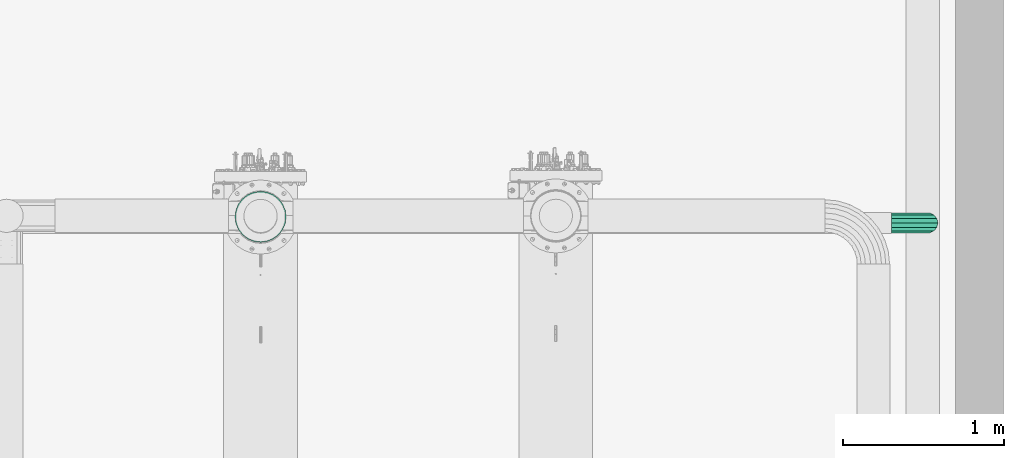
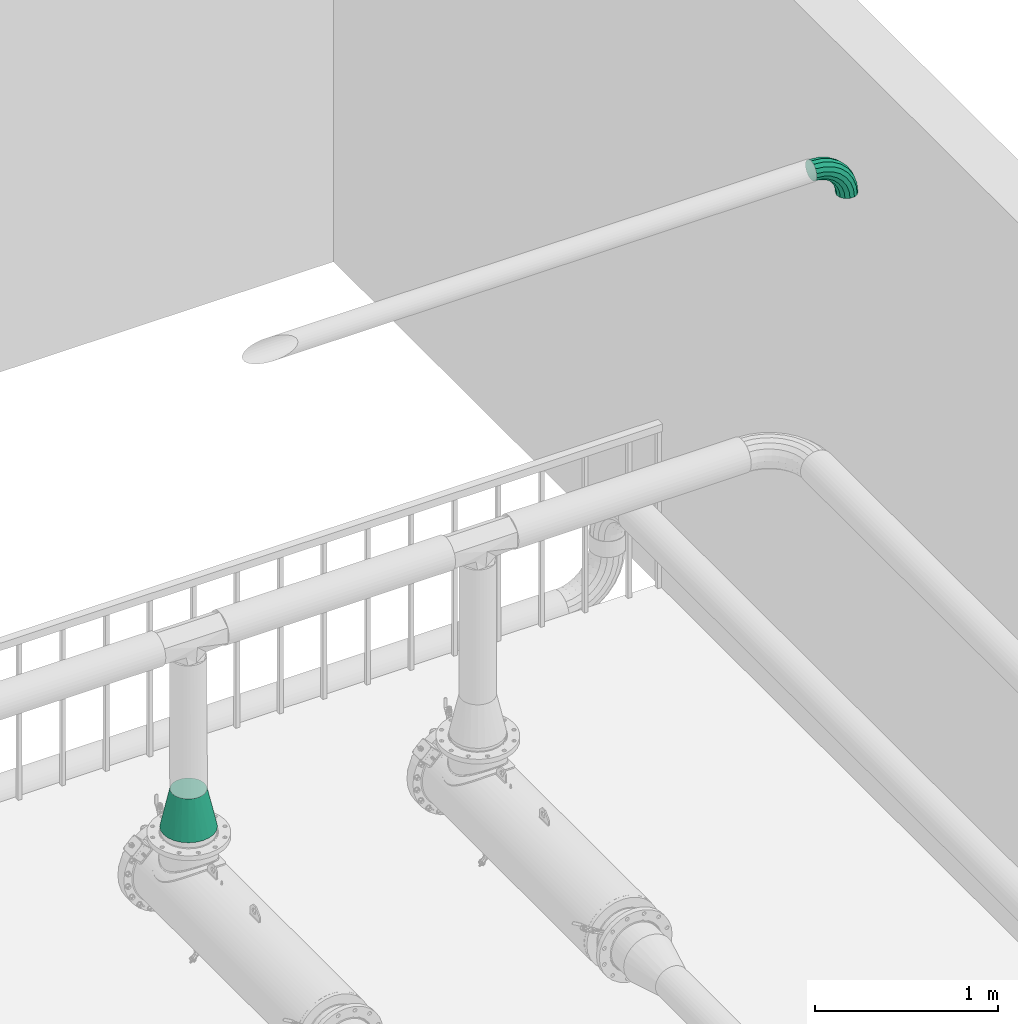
# One storey, part 28 of 28: 2 flow fittings.
"""IFC2X3 building model written with IfcOpenShell, lengths in millimetres."""

from ifc_helpers import new_model, entity, si_unit, converted_unit, direction, frame, origin, place, context, subcontext, project, spatial, faceted_brep, source, transform, mapped, material, type_object, type_shapes, element, save


model = new_model("IFC2X3")

# Units and contexts
model_context = context("Model", 3, precision=0.01, world=origin(), true_north=direction((6.123031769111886e-17, 1.0)))
body_context = subcontext(model_context, "Body", "Model", "MODEL_VIEW")
ifc_project = project(units=[si_unit("LENGTHUNIT", "METRE", prefix="MILLI"), converted_unit("PLANEANGLEUNIT", "DEGREE", entity("IfcPlaneAngleMeasure", 0.017453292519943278), si_unit("PLANEANGLEUNIT", "RADIAN"), dimensions=[0, 0, 0, 0, 0, 0, 0]), si_unit("AREAUNIT", "SQUARE_METRE")], contexts=[model_context])

# Site, building, storey
site_placement = place(None, frame((7776.576483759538, 118.3519876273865, 0.0)))
site = spatial("IfcSite", under=ifc_project, at=site_placement, Name="Default", CompositionType="ELEMENT")
building_placement = place(site_placement, origin())
building = spatial("IfcBuilding", under=site, at=building_placement, Name="Bygning (endres i Project Information)", CompositionType="ELEMENT")
storey_placement = place(building_placement, frame((0.0, 0.0, 14000.0)))
storey = spatial("IfcBuildingStorey", under=building, at=storey_placement, Name="Plan U1 - Arbeid", CompositionType="ELEMENT", Elevation=14000.000000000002)

# Flow fittings
ifc_material = material(Name="SS 2343 Rustfritt stål, prosessrør, generisk")
pipe_fitting_type_1 = type_object("IfcPipeFittingType", Name="Overganger, konsentriske, rustfritt EN 1,4307304L:Standard", PredefinedType="NOTDEFINED", material=ifc_material)
shared_shape_1 = source(origin(), body_context, "Body", "Brep", [
    faceted_brep([(252.20000000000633, 17.712114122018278, 100.45039080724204), (252.20000000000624, -17.712114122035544, 100.45039080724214), (252.2000000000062, -51.0, 88.3345911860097), (252.20000000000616, -78.13653319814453, 65.56433618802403), (252.20000000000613, -95.8486473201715, 34.8860546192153), (252.20000000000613, -102.0, 0.0), (252.20000000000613, -95.84864732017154, -34.88605461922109), (252.20000000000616, -78.13653319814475, -65.56433618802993), (252.2000000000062, -51.0, -88.33459118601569), (252.20000000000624, -17.712114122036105, -100.45039080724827), (252.20000000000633, 17.712114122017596, -100.45039080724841), (252.20000000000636, 51.0, -88.33459118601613), (252.2000000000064, 78.1365331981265, -65.5643361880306), (252.20000000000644, 95.84864732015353, -34.886054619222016), (252.20000000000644, 102.0, 0.0), (252.20000000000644, 95.84864732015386, 34.88605461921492), (252.2000000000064, 78.13653319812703, 65.56433618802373), (252.20000000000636, 51.0, 88.33459118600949), (0.0, 40.97105483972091, 152.90605830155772), (0.0, 79.14999999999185, 137.0918214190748), (0.0, 111.93500346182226, 111.93500346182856), (0.0, 137.09182141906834, 79.14999999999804), (0.0, 152.90605830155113, 40.97105483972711), (0.0, 158.29999999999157, 0.0), (0.0, 152.90605830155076, -40.97105483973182), (0.0, 137.09182141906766, -79.15000000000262), (0.0, 111.93500346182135, -111.9350034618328), (0.0, 79.14999999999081, -137.09182141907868), (0.0, 40.97105483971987, -152.90605830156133), (0.0, 0.0, -158.30000000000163), (0.0, -40.97105483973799, -152.906058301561), (0.0, -79.1500000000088, -137.09182141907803), (0.0, -111.93500346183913, -111.93500346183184), (0.0, -137.09182141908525, -79.15000000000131), (0.0, -152.90605830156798, -40.97105483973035), (0.0, -158.30000000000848, 0.0), (0.0, -152.90605830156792, 40.97105483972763), (0.0, -137.09182141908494, 79.14999999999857), (0.0, -111.93500346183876, 111.935003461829), (0.0, -79.15000000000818, 137.09182141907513), (0.0, -40.971054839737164, 152.90605830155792), (0.0, 0.0, 158.29999999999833)], [[[0, 1, 2, 3, 4, 5, 6, 7, 8, 9, 10, 11, 12, 13, 14, 15, 16, 17]], [[18, 19, 20, 21, 22, 23, 24, 25, 26, 27, 28, 29, 30, 31, 32, 33, 34, 35, 36, 37, 38, 39, 40, 41]], [[14, 13, 24]], [[11, 10, 28]], [[12, 11, 26]], [[13, 12, 25]], [[13, 25, 24]], [[24, 23, 14]], [[11, 27, 26]], [[26, 25, 12]], [[11, 28, 27]], [[10, 29, 28]], [[32, 8, 7]], [[30, 9, 8]], [[34, 33, 6]], [[6, 33, 7]], [[34, 6, 5]], [[33, 32, 7]], [[8, 31, 30]], [[30, 29, 9]], [[35, 34, 5]], [[32, 31, 8]], [[9, 29, 10]], [[5, 4, 36]], [[2, 1, 40]], [[3, 2, 38]], [[4, 3, 37]], [[4, 37, 36]], [[36, 35, 5]], [[2, 39, 38]], [[38, 37, 3]], [[2, 40, 39]], [[1, 41, 40]], [[20, 17, 16]], [[18, 0, 17]], [[22, 21, 15]], [[15, 21, 16]], [[22, 15, 14]], [[21, 20, 16]], [[17, 19, 18]], [[18, 41, 0]], [[23, 22, 14]], [[20, 19, 17]], [[0, 41, 1]]]),
])
type_shapes(pipe_fitting_type_1, [shared_shape_1])
flow_fitting_1_placement = place(storey_placement, frame((27667.696048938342, 28423.819699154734, 1299.3891515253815), z_axis=(0.0, -0.9999852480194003, 0.005431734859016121), x_axis=(0.0, 0.005431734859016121, 0.9999852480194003)))
element("IfcFlowFitting", 1, at=flow_fitting_1_placement, inside=storey, type_object=pipe_fitting_type_1, material=ifc_material, Name="Overganger, konsentriske, rustfritt EN 1,4307304L:Standard", ObjectType="Overganger, konsentriske, rustfritt EN 1,4307304L:Standard", context=body_context, shape_type="MappedRepresentation", body=[
    mapped(shared_shape_1, transform((0.0, 0.0, 0.0), scale=1.0)),
])
pipe_fitting_type_2 = type_object("IfcPipeFittingType", Name="VA_prosess_rustfritt_bend_D+100:VA_prosess_rustfritt_bend_D+100", PredefinedType="NOTDEFINED", material=ifc_material)
shared_shape_2 = source(origin(), body_context, "Body", "Brep", [
    faceted_brep([(-161.0962936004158, -55.288263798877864, 0.0), (-162.47390597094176, -49.2540759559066, 27.117733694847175), (-225.08644265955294, -56.310554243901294, 27.117733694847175), (-225.08644265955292, -62.50000000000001, 0.0), (-166.33389005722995, -32.34665733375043, 48.86446765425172), (-225.086442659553, -38.968112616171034, 48.86446765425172), (-171.91172867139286, -7.914729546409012, 60.93299451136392), (-225.08644265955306, -13.907558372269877, 60.93299451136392), (-178.10266246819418, 19.20266446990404, 60.93299451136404), (-225.08644265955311, 13.90755837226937, 60.93299451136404), (-183.68050108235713, 43.63459225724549, 48.86446765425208), (-225.0864426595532, 38.96811261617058, 48.86446765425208), (-187.54048516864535, 60.54201087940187, 27.117733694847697), (-225.08644265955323, 56.31055424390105, 27.117733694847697), (-188.91809753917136, 66.57619872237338, 0.0), (-225.08644265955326, 62.50000000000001, 0.0), (-187.54048516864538, 60.54201087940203, -27.117733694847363), (-225.08644265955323, 56.31055424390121, -27.117733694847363), (-183.68050108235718, 43.63459225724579, -48.86446765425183), (-225.0864426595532, 38.96811261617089, -48.86446765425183), (-178.10266246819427, 19.20266446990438, -60.932994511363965), (-225.08644265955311, 13.90755837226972, -60.932994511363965), (-171.91172867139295, -7.914729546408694, -60.932994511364), (-225.08644265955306, -13.907558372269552, -60.932994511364), (-166.33389005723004, -32.34665733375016, -48.864467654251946), (-225.086442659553, -38.96811261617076, -48.864467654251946), (-162.4739059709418, -49.254075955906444, -27.11773369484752), (-225.08644265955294, -56.31055424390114, -27.11773369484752), (-100.316440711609, -34.01485790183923, 0.0), (-103.00255256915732, -28.43865472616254, 27.117733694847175), (-110.52887074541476, -12.81448062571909, 48.86446765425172), (-121.40471562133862, 9.763105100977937, 60.93299451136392), (-133.47599273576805, 34.82233470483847, 60.93299451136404), (-144.35183761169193, 57.39992043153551, 48.86446765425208), (-151.87815578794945, 73.02409453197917, 27.117733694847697), (-154.56426764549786, 78.60029770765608, 0.0), (-151.8781557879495, 73.02409453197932, -27.117733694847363), (-144.35183761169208, 57.3999204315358, -48.86446765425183), (-133.4759927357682, 34.82233470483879, -60.932994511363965), (-121.40471562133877, 9.763105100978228, -60.932994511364), (-110.52887074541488, -12.814480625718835, -48.864467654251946), (-103.00255256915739, -28.438654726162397, -27.11773369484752), (-45.79612410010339, 0.25296070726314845, 0.0), (-49.655976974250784, 5.091428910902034, 27.117733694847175), (-60.47104439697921, 18.648515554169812, 48.86446765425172), (-76.09926962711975, 38.23907336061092, 60.93299451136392), (-93.44529099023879, 59.98295209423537, 60.93299451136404), (-109.07351622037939, 79.5735099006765, 48.86446765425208), (-119.88858364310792, 93.13059654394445, 27.117733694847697), (-123.74843651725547, 97.96906474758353, 0.0), (-119.88858364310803, 93.13059654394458, -27.117733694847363), (-109.07351622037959, 79.57350990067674, -48.86446765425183), (-93.44529099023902, 59.98295209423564, -60.932994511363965), (-76.09926962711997, 38.23907336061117, -60.932994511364), (-60.47104439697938, 18.648515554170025, -48.864467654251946), (-49.65597697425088, 5.091428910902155, -27.11773369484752), (-0.27055170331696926, 45.79602355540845, 0.0), (-5.110502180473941, 49.65401761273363, 27.117733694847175), (-18.6717420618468, 60.463876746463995, 48.86446765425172), (-38.26830147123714, 76.08457578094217, 60.93299451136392), (-60.01884148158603, 93.4222436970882, 60.93299451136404), (-79.61540089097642, 109.0429427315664, 48.86446765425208), (-93.17664077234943, 119.8528018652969, 27.117733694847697), (-98.01659124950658, 123.71079592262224, 0.0), (-93.17664077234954, 119.852801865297, -27.117733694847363), (-79.61540089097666, 109.04294273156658, -48.86446765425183), (-60.01884148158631, 93.42224369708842, -60.932994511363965), (-38.268301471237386, 76.08457578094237, -60.932994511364), (-18.671742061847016, 60.463876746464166, -48.864467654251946), (-5.110502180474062, 49.65401761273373, -27.11773369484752), (33.97632226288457, 100.32949895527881, 0.0), (28.399087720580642, 103.01346870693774, 27.117733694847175), (12.77202379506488, 110.53378483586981, 48.86446765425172), (-9.809737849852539, 121.40095650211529, 60.93299451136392), (-34.87360237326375, 133.4626070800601, 60.93299451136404), (-57.455364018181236, 144.3297787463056, 48.86446765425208), (-73.08242794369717, 151.85009487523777, 27.117733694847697), (-78.65966248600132, 154.53406462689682, 0.0), (-73.08242794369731, 151.85009487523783, -27.117733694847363), (-57.45536401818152, 144.32977874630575, -48.86446765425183), (-34.87360237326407, 133.46260708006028, -60.932994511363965), (-9.809737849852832, 121.40095650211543, -60.932994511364), (12.772023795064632, 110.53378483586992, -48.864467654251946), (28.3990877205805, 103.01346870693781, -27.11773369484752), (55.226380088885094, 161.1175188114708, 0.0), (49.191663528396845, 162.49281325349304, 27.117733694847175), (32.28276347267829, 166.3463026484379, 48.86446765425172), (7.848694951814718, 171.91475616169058, 60.93299451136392), (-19.27107509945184, 178.09527328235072, 60.93299451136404), (-43.70514362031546, 183.6637267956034, 48.86446765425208), (-60.614043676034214, 187.5172161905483, 27.117733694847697), (-66.6487602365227, 188.8925106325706, 0.0), (-60.61404367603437, 187.51721619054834, -27.117733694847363), (-43.705143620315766, 183.66372679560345, -48.86446765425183), (-19.27107509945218, 178.0952732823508, -60.932994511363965), (7.848694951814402, 171.91475616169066, -60.932994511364), (32.28276347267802, 166.34630264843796, -48.864467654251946), (49.19166352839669, 162.49281325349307, -27.11773369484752), (62.41353613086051, 225.1104332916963, 0.0), (56.224090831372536, 225.1080558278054, 27.117733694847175), (38.88165048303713, 225.10139432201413, 48.86446765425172), (13.821098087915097, 225.0917681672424, 60.93299451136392), (-13.994016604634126, 225.08108394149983, 60.93299451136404), (-39.054568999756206, 225.07145778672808, 48.86446765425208), (-56.39700934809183, 225.06479628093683, 27.117733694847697), (-62.58645464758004, 225.06241881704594, 0.0), (-56.397009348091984, 225.06479628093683, -27.117733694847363), (-39.05456899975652, 225.07145778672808, -48.86446765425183), (-13.994016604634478, 225.08108394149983, -60.932994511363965), (13.821098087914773, 225.0917681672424, -60.932994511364), (38.88165048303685, 225.10139432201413, -48.864467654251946), (56.22409083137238, 225.1080558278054, -27.11773369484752)], [[[0, 1, 2, 3]], [[1, 4, 5, 2]], [[4, 6, 7, 5]], [[6, 8, 9, 7]], [[8, 10, 11, 9]], [[10, 12, 13, 11]], [[12, 14, 15, 13]], [[14, 16, 17, 15]], [[16, 18, 19, 17]], [[18, 20, 21, 19]], [[20, 22, 23, 21]], [[22, 24, 25, 23]], [[24, 26, 27, 25]], [[26, 0, 3, 27]], [[28, 29, 1, 0]], [[29, 30, 4, 1]], [[30, 31, 6, 4]], [[31, 32, 8, 6]], [[32, 33, 10, 8]], [[33, 34, 12, 10]], [[34, 35, 14, 12]], [[35, 36, 16, 14]], [[36, 37, 18, 16]], [[37, 38, 20, 18]], [[38, 39, 22, 20]], [[39, 40, 24, 22]], [[40, 41, 26, 24]], [[41, 28, 0, 26]], [[42, 43, 29, 28]], [[43, 44, 30, 29]], [[44, 45, 31, 30]], [[45, 46, 32, 31]], [[46, 47, 33, 32]], [[47, 48, 34, 33]], [[48, 49, 35, 34]], [[49, 50, 36, 35]], [[50, 51, 37, 36]], [[51, 52, 38, 37]], [[52, 53, 39, 38]], [[53, 54, 40, 39]], [[54, 55, 41, 40]], [[55, 42, 28, 41]], [[56, 57, 43, 42]], [[57, 58, 44, 43]], [[58, 59, 45, 44]], [[59, 60, 46, 45]], [[60, 61, 47, 46]], [[61, 62, 48, 47]], [[62, 63, 49, 48]], [[63, 64, 50, 49]], [[64, 65, 51, 50]], [[65, 66, 52, 51]], [[66, 67, 53, 52]], [[67, 68, 54, 53]], [[68, 69, 55, 54]], [[69, 56, 42, 55]], [[70, 71, 57, 56]], [[71, 72, 58, 57]], [[72, 73, 59, 58]], [[73, 74, 60, 59]], [[74, 75, 61, 60]], [[75, 76, 62, 61]], [[76, 77, 63, 62]], [[77, 78, 64, 63]], [[78, 79, 65, 64]], [[79, 80, 66, 65]], [[80, 81, 67, 66]], [[81, 82, 68, 67]], [[82, 83, 69, 68]], [[83, 70, 56, 69]], [[84, 85, 71, 70]], [[85, 86, 72, 71]], [[86, 87, 73, 72]], [[87, 88, 74, 73]], [[88, 89, 75, 74]], [[89, 90, 76, 75]], [[90, 91, 77, 76]], [[91, 92, 78, 77]], [[92, 93, 79, 78]], [[93, 94, 80, 79]], [[94, 95, 81, 80]], [[95, 96, 82, 81]], [[96, 97, 83, 82]], [[97, 84, 70, 83]], [[98, 99, 85, 84]], [[99, 100, 86, 85]], [[100, 101, 87, 86]], [[101, 102, 88, 87]], [[102, 103, 89, 88]], [[103, 104, 90, 89]], [[104, 105, 91, 90]], [[105, 106, 92, 91]], [[106, 107, 93, 92]], [[107, 108, 94, 93]], [[108, 109, 95, 94]], [[109, 110, 96, 95]], [[110, 111, 97, 96]], [[111, 98, 84, 97]], [[3, 2, 5, 7, 9, 11, 13, 15, 17, 19, 21, 23, 25, 27]], [[111, 110, 109, 108, 107, 106, 105, 104, 103, 102, 101, 100, 99, 98]]]),
])
type_shapes(pipe_fitting_type_2, [shared_shape_2])
flow_fitting_2_placement = place(storey_placement, frame((31801.88776512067, 28385.82368856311, 4334.499999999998), z_axis=(0.0, 1.0, 3.3183677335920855e-07), x_axis=(1.0, 0.0, 0.0)))
element("IfcFlowFitting", 2, at=flow_fitting_2_placement, inside=storey, type_object=pipe_fitting_type_2, material=ifc_material, Name="VA_prosess_rustfritt_bend_D+100:VA_prosess_rustfritt_bend_D+100", ObjectType="VA_prosess_rustfritt_bend_D+100:VA_prosess_rustfritt_bend_D+100", context=body_context, shape_type="MappedRepresentation", body=[
    mapped(shared_shape_2, transform((0.0, 0.0, 0.0), scale=1.0)),
])

save(model, "model.ifc")
